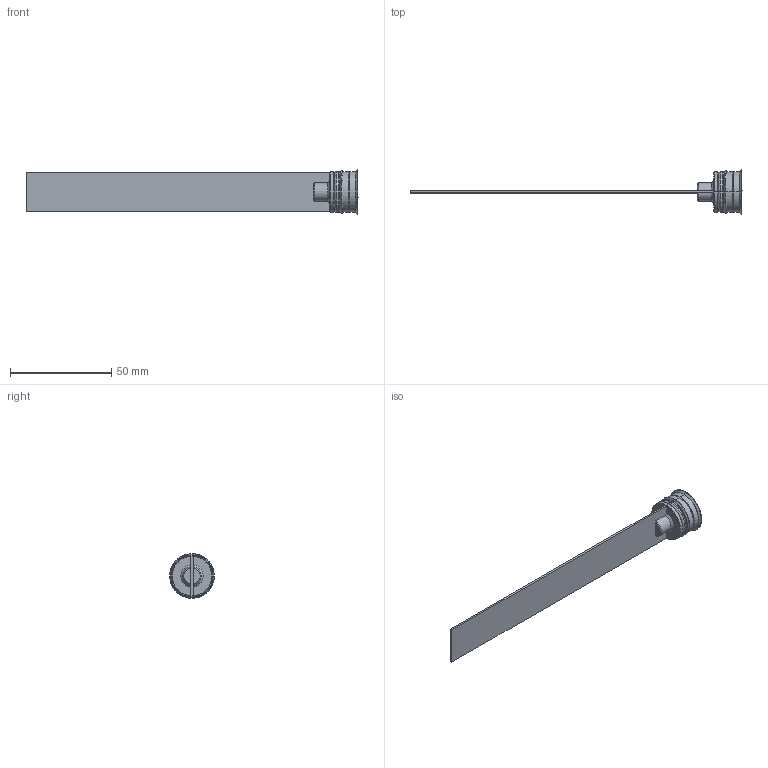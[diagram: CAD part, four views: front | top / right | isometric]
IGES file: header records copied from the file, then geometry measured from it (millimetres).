
Start section: START RECORD GO HERE.
Global section: file name: RL-20Fx150P (lama 19.5mm).igs; native system: DASSAULT SYSTEMES CATIA V5 R20 - www.3ds.com; preprocessor: CATIA Version 5 Release 20 ; author: Utente; organization: NB04-ASUS; date: 20210303.200551; units: millimetre
Bounding box: 164 x 22 x 22 mm (x, y, z)
Surface area: 8488.4 mm2 (no closed solid volume)
Topology: 0 solids, 0 shells, 74 faces, 416 edges, 416 vertices
Faces by surface type: revolution 46, plane 28
